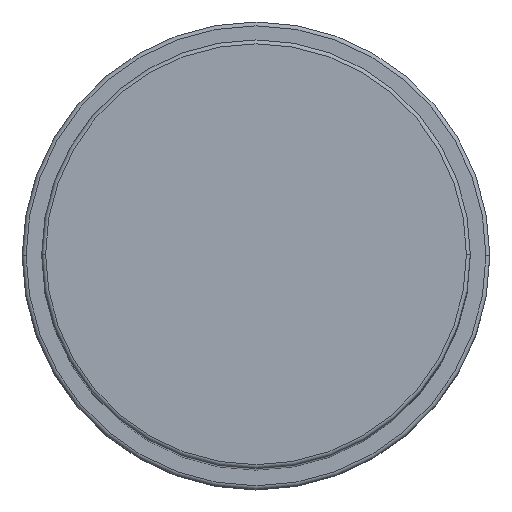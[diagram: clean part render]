
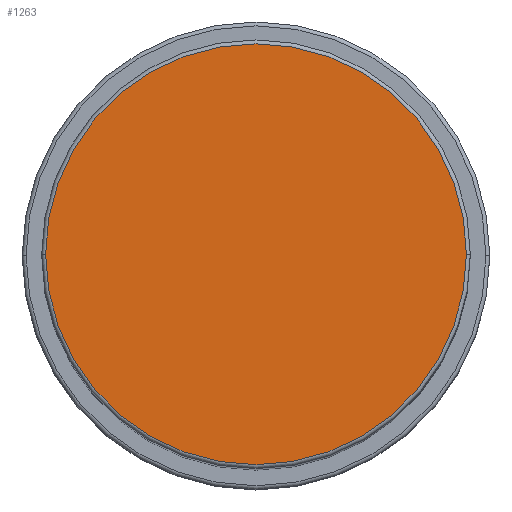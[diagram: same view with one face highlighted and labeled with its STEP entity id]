
A CAD part, top view. The second image highlights one B-rep face of the part: STEP entity #1263.
In plain terms, the highlighted planar face has unit normal (0, 0, 1).
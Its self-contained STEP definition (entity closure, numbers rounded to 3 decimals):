
#107 = CIRCLE ( 'NONE', #122, 27. ) ;
#122 = AXIS2_PLACEMENT_3D ( 'NONE', #1221, #364, #929 ) ;
#146 = DIRECTION ( 'NONE',  ( 0., 0., 1. ) ) ;
#156 = CARTESIAN_POINT ( 'NONE',  ( 0., 0., 128. ) ) ;
#273 = EDGE_LOOP ( 'NONE', ( #810, #1545 ) ) ;
#339 = EDGE_CURVE ( 'NONE', #888, #1294, #107, .T. ) ;
#345 = DIRECTION ( 'NONE',  ( 1., 0., 0. ) ) ;
#364 = DIRECTION ( 'NONE',  ( 0., 0., 1. ) ) ;
#669 = FACE_OUTER_BOUND ( 'NONE', #273, .T. ) ;
#778 = DIRECTION ( 'NONE',  ( 0., 0., 1. ) ) ;
#810 = ORIENTED_EDGE ( 'NONE', *, *, #339, .T. ) ;
#888 = VERTEX_POINT ( 'NONE', #1411 ) ;
#929 = DIRECTION ( 'NONE',  ( 1., 0., 0. ) ) ;
#1171 = AXIS2_PLACEMENT_3D ( 'NONE', #1316, #778, #345 ) ;
#1174 = PLANE ( 'NONE',  #1171 ) ;
#1221 = CARTESIAN_POINT ( 'NONE',  ( 0., 0., 128. ) ) ;
#1263 = ADVANCED_FACE ( 'NONE', ( #669 ), #1174, .T. ) ;
#1294 = VERTEX_POINT ( 'NONE', #1754 ) ;
#1316 = CARTESIAN_POINT ( 'NONE',  ( 0., 0., 128. ) ) ;
#1355 = CIRCLE ( 'NONE', #1573, 27. ) ;
#1411 = CARTESIAN_POINT ( 'NONE',  ( 27., 0., 128. ) ) ;
#1532 = DIRECTION ( 'NONE',  ( 1., 0., 0. ) ) ;
#1545 = ORIENTED_EDGE ( 'NONE', *, *, #1554, .T. ) ;
#1554 = EDGE_CURVE ( 'NONE', #1294, #888, #1355, .T. ) ;
#1573 = AXIS2_PLACEMENT_3D ( 'NONE', #156, #146, #1532 ) ;
#1754 = CARTESIAN_POINT ( 'NONE',  ( -27., 0., 128. ) ) ;
